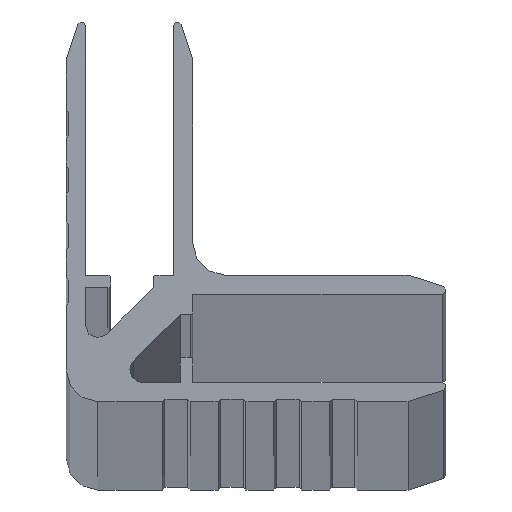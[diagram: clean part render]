
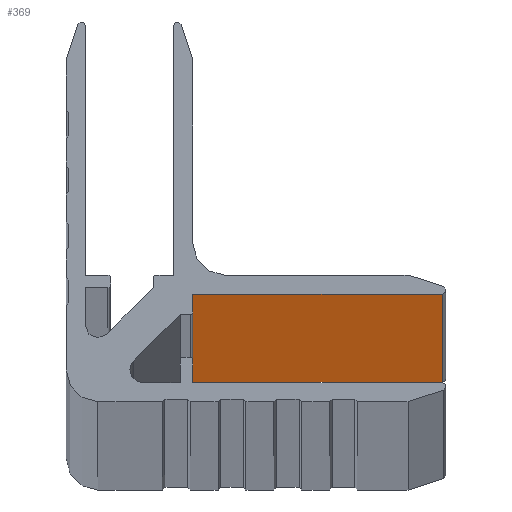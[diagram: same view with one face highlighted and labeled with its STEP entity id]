
A CAD part, top view. The second image highlights one B-rep face of the part: STEP entity #369.
In plain terms, the highlighted planar face has unit normal (0, -1, 0).
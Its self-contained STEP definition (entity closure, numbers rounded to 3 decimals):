
#26 = VERTEX_POINT ( 'NONE', #889 ) ;
#161 = DIRECTION ( 'NONE',  ( 0., 0., 1. ) ) ;
#181 = AXIS2_PLACEMENT_3D ( 'NONE', #2304, #1905, #161 ) ;
#261 = LINE ( 'NONE', #2429, #1923 ) ;
#266 = CARTESIAN_POINT ( 'NONE',  ( 14.7, -6.5, 4000. ) ) ;
#335 = DIRECTION ( 'NONE',  ( 0., 0., -1. ) ) ;
#361 = ORIENTED_EDGE ( 'NONE', *, *, #920, .F. ) ;
#369 = ADVANCED_FACE ( 'NONE', ( #376 ), #2093, .F. ) ;
#376 = FACE_OUTER_BOUND ( 'NONE', #1085, .T. ) ;
#388 = EDGE_CURVE ( 'NONE', #26, #2231, #835, .T. ) ;
#549 = ORIENTED_EDGE ( 'NONE', *, *, #388, .F. ) ;
#581 = VERTEX_POINT ( 'NONE', #1006 ) ;
#614 = VECTOR ( 'NONE', #1230, 1000. ) ;
#687 = CARTESIAN_POINT ( 'NONE',  ( -5., -6.5, 4000. ) ) ;
#732 = CARTESIAN_POINT ( 'NONE',  ( -5., -6.5, 0. ) ) ;
#733 = VECTOR ( 'NONE', #335, 1000. ) ;
#835 = LINE ( 'NONE', #266, #1238 ) ;
#865 = ORIENTED_EDGE ( 'NONE', *, *, #1496, .T. ) ;
#889 = CARTESIAN_POINT ( 'NONE',  ( -5., -6.5, 4000. ) ) ;
#920 = EDGE_CURVE ( 'NONE', #2231, #581, #261, .T. ) ;
#975 = CARTESIAN_POINT ( 'NONE',  ( 14.7, -6.5, 0. ) ) ;
#1006 = CARTESIAN_POINT ( 'NONE',  ( 14.7, -6.5, 0. ) ) ;
#1085 = EDGE_LOOP ( 'NONE', ( #1929, #361, #549, #865 ) ) ;
#1174 = EDGE_CURVE ( 'NONE', #2358, #581, #1963, .T. ) ;
#1230 = DIRECTION ( 'NONE',  ( 1., 0., 0. ) ) ;
#1238 = VECTOR ( 'NONE', #1786, 1000. ) ;
#1302 = DIRECTION ( 'NONE',  ( 0., 0., -1. ) ) ;
#1496 = EDGE_CURVE ( 'NONE', #26, #2358, #2079, .T. ) ;
#1527 = CARTESIAN_POINT ( 'NONE',  ( 14.7, -6.5, 4000. ) ) ;
#1786 = DIRECTION ( 'NONE',  ( 1., 0., 0. ) ) ;
#1905 = DIRECTION ( 'NONE',  ( 0., 1., 0. ) ) ;
#1923 = VECTOR ( 'NONE', #1302, 1000. ) ;
#1929 = ORIENTED_EDGE ( 'NONE', *, *, #1174, .T. ) ;
#1963 = LINE ( 'NONE', #975, #614 ) ;
#2079 = LINE ( 'NONE', #687, #733 ) ;
#2093 = PLANE ( 'NONE',  #181 ) ;
#2231 = VERTEX_POINT ( 'NONE', #1527 ) ;
#2304 = CARTESIAN_POINT ( 'NONE',  ( 14.7, -6.5, 4000. ) ) ;
#2358 = VERTEX_POINT ( 'NONE', #732 ) ;
#2429 = CARTESIAN_POINT ( 'NONE',  ( 14.7, -6.5, 4000. ) ) ;
